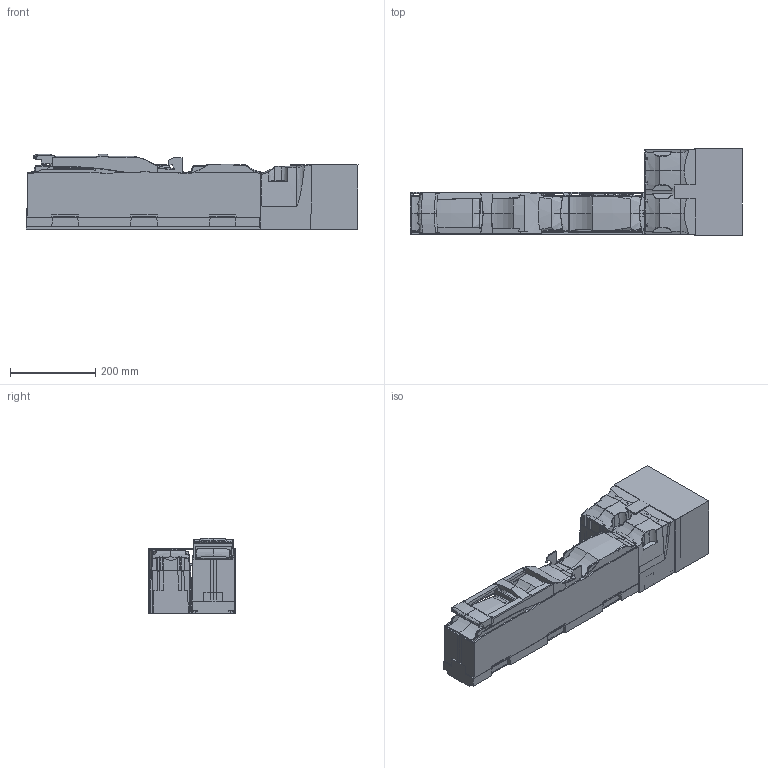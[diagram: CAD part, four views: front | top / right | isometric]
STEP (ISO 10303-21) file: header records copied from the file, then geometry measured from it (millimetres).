
FILE_DESCRIPTION(/* description */ (''),/* implementation_level */ '2;1');
FILE_NAME(/* name */ 'ARS 630kVA - 3 - 3M.stp',/* time_stamp */ '2022-01-13T08:47:13+01:00',/* author */ (''),/* organization */ (''),/* preprocessor_version */ 'ST-DEVELOPER v18.1',/* originating_system */ 'SIEMENS PLM Software NX 1957',/* authorisation */ '');
FILE_SCHEMA (('AUTOMOTIVE_DESIGN { 1 0 10303 214 3 1 1 1 }'));
Products named in the file (1): 710_5304BBFCn111
Bounding box: 779.83 x 203 x 177.31 mm (x, y, z)
Volume: 1633271.5 mm3; surface area: 1218499.3 mm2
Topology: 8 solids, 9 shells, 1699 faces, 5105 edges, 3392 vertices
Faces by surface type: plane 1101, bspline 241, cylinder 163, extrusion 107, cone 52, revolution 16, sphere 10, torus 9
Full cylindrical faces by diameter (mm): 6.4 x8, 9.5 x3, 14 x2, 14.5 x9
Entity records: 172706 total; most frequent: CARTESIAN_POINT 126910, ORIENTED_EDGE 10139, DIRECTION 7067, EDGE_CURVE 5073, VERTEX_POINT 3390, VECTOR 3195, LINE 3088, AXIS2_PLACEMENT_3D 1928
